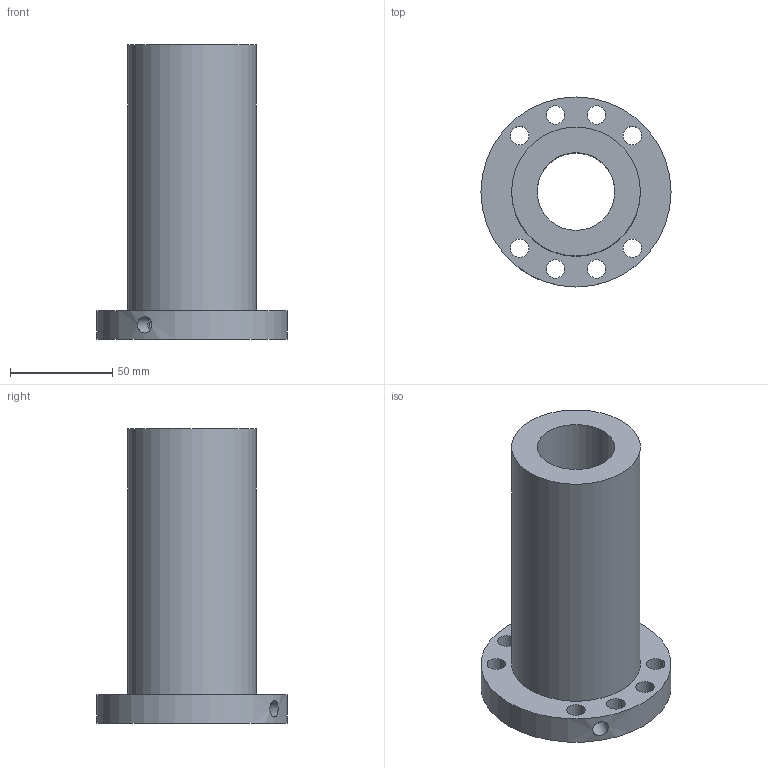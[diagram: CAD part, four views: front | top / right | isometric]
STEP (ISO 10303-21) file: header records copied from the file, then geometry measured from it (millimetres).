
FILE_DESCRIPTION(/* description */ (''),/* implementation_level */ '2;1');
FILE_NAME(/* name */ '38-10K4_635',/* time_stamp */ '2007-10-15T12:53:59+08:00',/* author */ (''),/* organization */ (''),/* preprocessor_version */ 'ST-DEVELOPER v11',/* originating_system */ 'UGS - NX 5.0',/* authorisation */ '');
FILE_SCHEMA (('CONFIG_CONTROL_DESIGN'));
Length unit declared in the file: millimetre
Products named in the file (1): 38-10K4_635
Bounding box: 93 x 93 x 144 mm (x, y, z)
Volume: 328908.3 mm3; surface area: 61001.8 mm2
Topology: 1 solids, 1 shells, 17 faces, 40 edges, 27 vertices
Faces by surface type: cylinder 13, plane 4
Full cylindrical faces by diameter (mm): 6 x1, 8 x1, 9 x8, 38 x1, 63 x1, 93 x1
Entity records: 668 total; most frequent: CARTESIAN_POINT 184, DIRECTION 84, FACE_BOUND 52, EDGE_LOOP 52, ORIENTED_EDGE 52, AXIS2_PLACEMENT_3D 42, VERTEX_POINT 26, EDGE_CURVE 26
